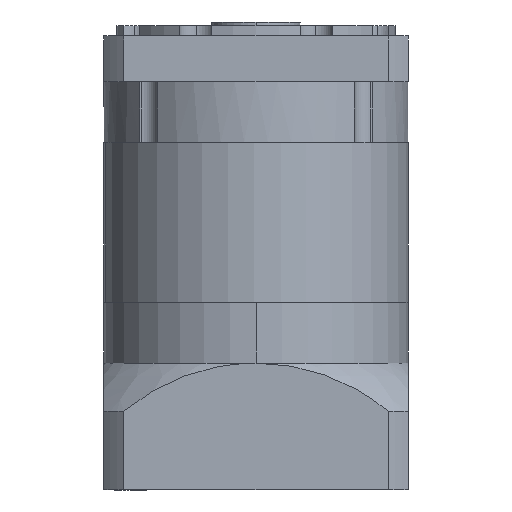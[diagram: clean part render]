
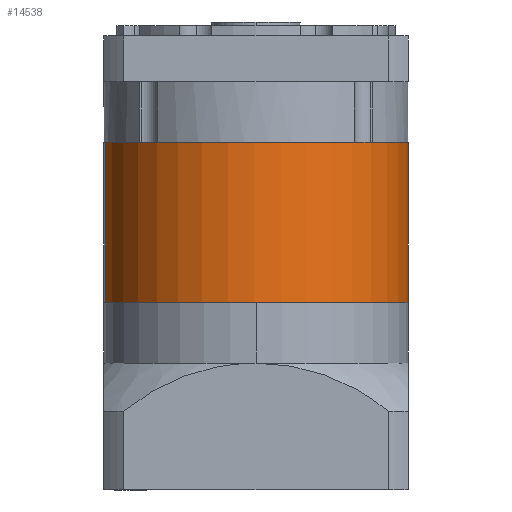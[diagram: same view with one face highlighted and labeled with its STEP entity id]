
A CAD part, left-side view. The second image highlights one B-rep face of the part: STEP entity #14538.
In plain terms, the highlighted cylindrical face has radius 60 mm (diameter 120 mm), a partial arc.
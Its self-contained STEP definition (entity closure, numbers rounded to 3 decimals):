
#3739 = CARTESIAN_POINT ( 'NONE',  ( 0., -60., 31.5 ) ) ;
#4700 = DIRECTION ( 'NONE',  ( 0., 0., -1. ) ) ;
#4720 = CIRCLE ( 'NONE', #18259, 60. ) ;
#5286 = CARTESIAN_POINT ( 'NONE',  ( 0., 60., 31.5 ) ) ;
#7754 = DIRECTION ( 'NONE',  ( 0., 0., -1. ) ) ;
#8655 = ORIENTED_EDGE ( 'NONE', *, *, #27008, .T. ) ;
#13508 = CARTESIAN_POINT ( 'NONE',  ( 0., -60., 31.5 ) ) ;
#14538 = ADVANCED_FACE ( 'NONE', ( #42008 ), #23341, .T. ) ;
#17512 = VECTOR ( 'NONE', #7754, 1000. ) ;
#17758 = ORIENTED_EDGE ( 'NONE', *, *, #32310, .T. ) ;
#17983 = DIRECTION ( 'NONE',  ( 0., 0., -1. ) ) ;
#18259 = AXIS2_PLACEMENT_3D ( 'NONE', #18384, #42918, #21930 ) ;
#18384 = CARTESIAN_POINT ( 'NONE',  ( 0., 0., -31.5 ) ) ;
#20273 = AXIS2_PLACEMENT_3D ( 'NONE', #25328, #25381, #25491 ) ;
#20586 = EDGE_CURVE ( 'NONE', #27202, #36155, #45462, .T. ) ;
#21930 = DIRECTION ( 'NONE',  ( 0., 1., 0. ) ) ;
#23341 = CYLINDRICAL_SURFACE ( 'NONE', #20273, 60. ) ;
#24193 = CARTESIAN_POINT ( 'NONE',  ( 0., -60., -31.5 ) ) ;
#25328 = CARTESIAN_POINT ( 'NONE',  ( 0., 0., 31.5 ) ) ;
#25381 = DIRECTION ( 'NONE',  ( 0., 0., -1. ) ) ;
#25491 = DIRECTION ( 'NONE',  ( 0., 1., 0. ) ) ;
#25790 = VERTEX_POINT ( 'NONE', #28625 ) ;
#25862 = ORIENTED_EDGE ( 'NONE', *, *, #44290, .F. ) ;
#25888 = CARTESIAN_POINT ( 'NONE',  ( 0., 0., 31.5 ) ) ;
#26933 = AXIS2_PLACEMENT_3D ( 'NONE', #25888, #4700, #29409 ) ;
#27008 = EDGE_CURVE ( 'NONE', #36155, #25790, #4720, .T. ) ;
#27202 = VERTEX_POINT ( 'NONE', #13508 ) ;
#28625 = CARTESIAN_POINT ( 'NONE',  ( 0., 60., -31.5 ) ) ;
#29409 = DIRECTION ( 'NONE',  ( 0., 1., 0. ) ) ;
#29787 = CIRCLE ( 'NONE', #26933, 60. ) ;
#32310 = EDGE_CURVE ( 'NONE', #32476, #27202, #29787, .T. ) ;
#32476 = VERTEX_POINT ( 'NONE', #5286 ) ;
#34689 = EDGE_LOOP ( 'NONE', ( #17758, #39833, #8655, #25862 ) ) ;
#36055 = VECTOR ( 'NONE', #17983, 1000. ) ;
#36155 = VERTEX_POINT ( 'NONE', #24193 ) ;
#37142 = LINE ( 'NONE', #39058, #36055 ) ;
#39058 = CARTESIAN_POINT ( 'NONE',  ( 0., 60., 31.5 ) ) ;
#39833 = ORIENTED_EDGE ( 'NONE', *, *, #20586, .T. ) ;
#42008 = FACE_OUTER_BOUND ( 'NONE', #34689, .T. ) ;
#42918 = DIRECTION ( 'NONE',  ( 0., 0., 1. ) ) ;
#44290 = EDGE_CURVE ( 'NONE', #32476, #25790, #37142, .T. ) ;
#45462 = LINE ( 'NONE', #3739, #17512 ) ;
